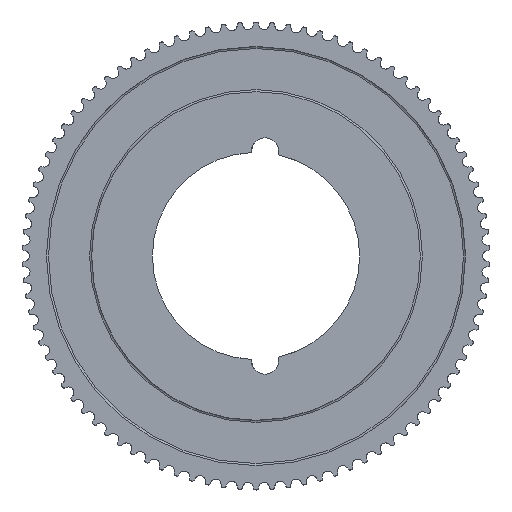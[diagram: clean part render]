
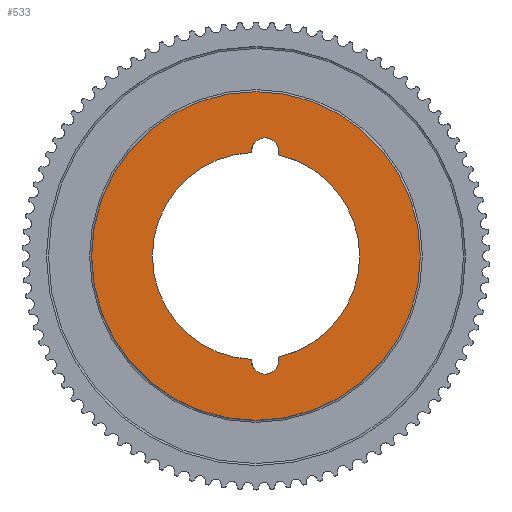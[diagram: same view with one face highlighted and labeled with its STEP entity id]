
A CAD part, left-side view. The second image highlights one B-rep face of the part: STEP entity #533.
In plain terms, the highlighted planar face has unit normal (-1, 0, 0).
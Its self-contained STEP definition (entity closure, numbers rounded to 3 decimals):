
#533 = ADVANCED_FACE( '', ( #1559, #1560 ), #1561, .T. );
#1559 = FACE_BOUND( '', #2693, .T. );
#1560 = FACE_OUTER_BOUND( '', #2694, .T. );
#1561 = PLANE( '', #2695 );
#2693 = EDGE_LOOP( '', ( #6638, #6639, #6640, #6641 ) );
#2694 = EDGE_LOOP( '', ( #6642 ) );
#2695 = AXIS2_PLACEMENT_3D( '', #6643, #6644, #6645 );
#6638 = ORIENTED_EDGE( '', *, *, #9428, .F. );
#6639 = ORIENTED_EDGE( '', *, *, #9429, .T. );
#6640 = ORIENTED_EDGE( '', *, *, #9430, .F. );
#6641 = ORIENTED_EDGE( '', *, *, #9431, .T. );
#6642 = ORIENTED_EDGE( '', *, *, #9432, .F. );
#6643 = CARTESIAN_POINT( '', ( 4.5, 80., 0. ) );
#6644 = DIRECTION( '', ( -1., 0., 0. ) );
#6645 = DIRECTION( '', ( 0., 0., 1. ) );
#9428 = EDGE_CURVE( '', #12172, #12173, #12174, .T. );
#9429 = EDGE_CURVE( '', #12172, #12175, #12176, .T. );
#9430 = EDGE_CURVE( '', #12177, #12175, #12178, .T. );
#9431 = EDGE_CURVE( '', #12177, #12173, #12179, .T. );
#9432 = EDGE_CURVE( '', #12180, #12180, #12181, .T. );
#12172 = VERTEX_POINT( '', #15849 );
#12173 = VERTEX_POINT( '', #15850 );
#12174 = CIRCLE( '', #15851, 6.75 );
#12175 = VERTEX_POINT( '', #15852 );
#12176 = CIRCLE( '', #15853, 50.434 );
#12177 = VERTEX_POINT( '', #15854 );
#12178 = CIRCLE( '', #15855, 6.75 );
#12179 = CIRCLE( '', #15856, 50.434 );
#12180 = VERTEX_POINT( '', #15857 );
#12181 = CIRCLE( '', #15858, 80. );
#15849 = CARTESIAN_POINT( '', ( 4.5, 2.309, -50.381 ) );
#15850 = CARTESIAN_POINT( '', ( 4.5, -10.99, -49.222 ) );
#15851 = AXIS2_PLACEMENT_3D( '', #18820, #18821, #18822 );
#15852 = CARTESIAN_POINT( '', ( 4.5, 2.309, 50.381 ) );
#15853 = AXIS2_PLACEMENT_3D( '', #18823, #18824, #18825 );
#15854 = CARTESIAN_POINT( '', ( 4.5, -10.99, 49.222 ) );
#15855 = AXIS2_PLACEMENT_3D( '', #18826, #18827, #18828 );
#15856 = AXIS2_PLACEMENT_3D( '', #18829, #18830, #18831 );
#15857 = CARTESIAN_POINT( '', ( 4.5, 0., -80. ) );
#15858 = AXIS2_PLACEMENT_3D( '', #18832, #18833, #18834 );
#18820 = CARTESIAN_POINT( '', ( 4.5, -4.428, -50.8 ) );
#18821 = DIRECTION( '', ( -1., 0., 0. ) );
#18822 = DIRECTION( '', ( 0., 0., 1. ) );
#18823 = CARTESIAN_POINT( '', ( 4.5, 0., 0. ) );
#18824 = DIRECTION( '', ( 1., 0., 0. ) );
#18825 = DIRECTION( '', ( 0., 0., -1. ) );
#18826 = CARTESIAN_POINT( '', ( 4.5, -4.428, 50.8 ) );
#18827 = DIRECTION( '', ( -1., 0., 0. ) );
#18828 = DIRECTION( '', ( 0., 0., 1. ) );
#18829 = CARTESIAN_POINT( '', ( 4.5, 0., 0. ) );
#18830 = DIRECTION( '', ( 1., 0., 0. ) );
#18831 = DIRECTION( '', ( 0., 0., -1. ) );
#18832 = CARTESIAN_POINT( '', ( 4.5, 0., 0. ) );
#18833 = DIRECTION( '', ( 1., 0., 0. ) );
#18834 = DIRECTION( '', ( 0., 0., -1. ) );
